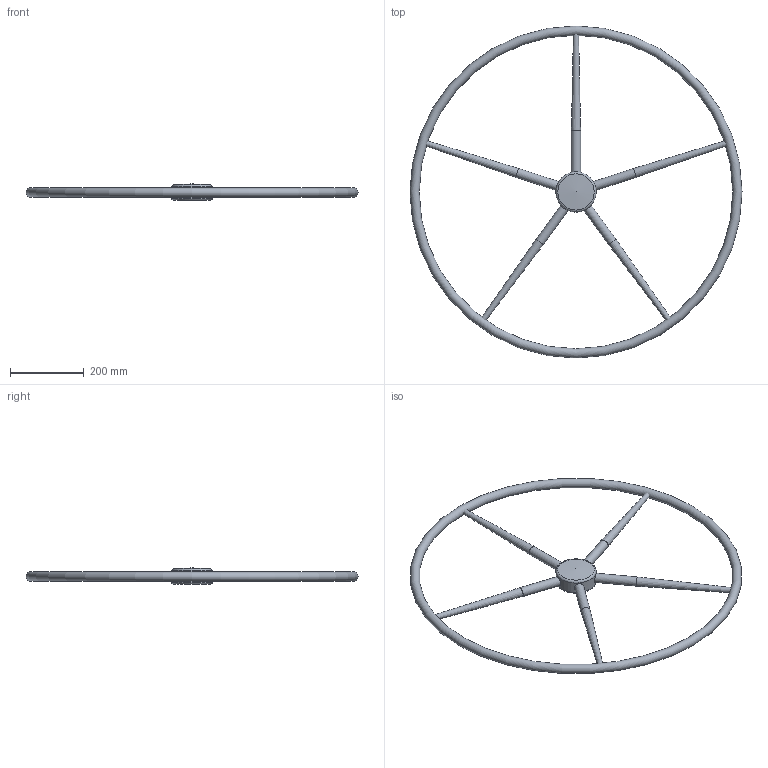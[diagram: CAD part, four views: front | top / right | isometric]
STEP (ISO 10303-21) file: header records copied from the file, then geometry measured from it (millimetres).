
FILE_DESCRIPTION(('STEP AP214'),'1');
FILE_NAME('Z:/J/Jp3/Barre à roue/roue 5 simple rayons/roue alu 5 simple rayons 2011/barre à roue 900.step','2011-12-07T07:56:35',(' '),(' '),'Spatial InterOp 3D',' ',' ');
FILE_SCHEMA(('automotive_design'));
Length unit declared in the file: metre
Products named in the file (7): Cerceau; rayons; moyeu
Bounding box: 900 x 900 x 43.85 mm (x, y, z)
Volume: 1418385.3 mm3; surface area: 584651.4 mm2
Topology: 7 solids, 8 shells, 55 faces, 111 edges, 68 vertices
Faces by surface type: cylinder 22, cone 16, plane 12, torus 4, sphere 1
Full cylindrical faces by diameter (mm): 6.75 x10, 25 x5, 25.1 x5, 40 x1, 109 x1
Entity records: 2088 total; most frequent: CARTESIAN_POINT 660, DIRECTION 208, AXIS2_PLACEMENT_3D 104, EDGE_LOOP 94, ORIENTED_EDGE 94, FACE_OUTER_BOUND 77, VERTEX_POINT 57, STYLED_ITEM 55
